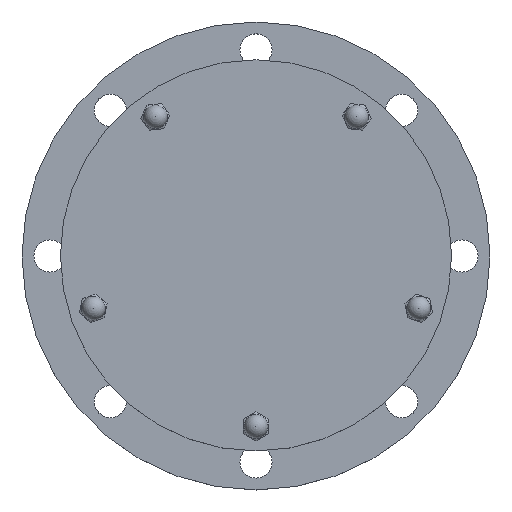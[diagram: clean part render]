
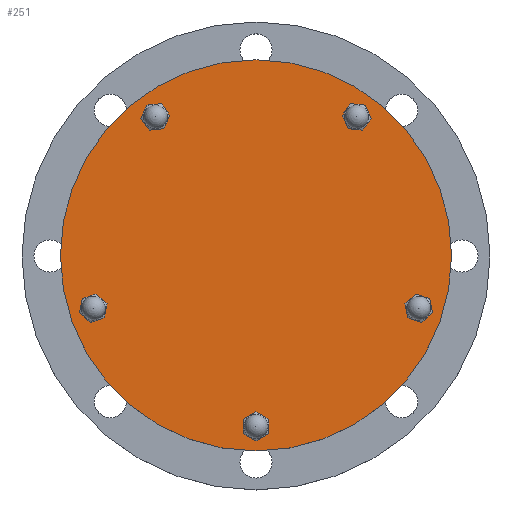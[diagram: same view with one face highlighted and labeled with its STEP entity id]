
A CAD part, top view. The second image highlights one B-rep face of the part: STEP entity #251.
In plain terms, the highlighted planar face has unit normal (0, 0, 1).
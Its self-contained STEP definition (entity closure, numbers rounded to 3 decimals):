
#251=ADVANCED_FACE('',(#967,#969,#971,#973),#975,.T.);
#967=FACE_BOUND('',#968,.T.);
#968=EDGE_LOOP('',(#1851));
#969=FACE_BOUND('',#970,.T.);
#970=EDGE_LOOP('',(#1852));
#971=FACE_BOUND('',#972,.T.);
#972=EDGE_LOOP('',(#1853));
#973=FACE_BOUND('',#974,.T.);
#974=EDGE_LOOP('',(#1854));
#975=PLANE('',#976);
#976=AXIS2_PLACEMENT_3D('',#977,#978,#979);
#977=CARTESIAN_POINT('',(0.,0.,273.));
#978=DIRECTION('',(0.,0.,1.));
#979=DIRECTION('',(-1.,0.,0.));
#1851=ORIENTED_EDGE('',*,*,#2281,.F.);
#1852=ORIENTED_EDGE('',*,*,#2282,.F.);
#1853=ORIENTED_EDGE('',*,*,#2283,.F.);
#1854=ORIENTED_EDGE('',*,*,#2284,.F.);
#2281=EDGE_CURVE('',#2466,#2466,#2467,.T.);
#2282=EDGE_CURVE('',#2468,#2468,#2469,.T.);
#2283=EDGE_CURVE('',#2470,#2470,#2471,.T.);
#2284=EDGE_CURVE('',#2472,#2472,#2473,.T.);
#2466=VERTEX_POINT('',#2771);
#2467=CIRCLE('',#2772,140.);
#2468=VERTEX_POINT('',#2776);
#2469=CIRCLE('',#2777,8.1);
#2470=VERTEX_POINT('',#2781);
#2471=CIRCLE('',#2782,8.1);
#2472=VERTEX_POINT('',#2786);
#2473=CIRCLE('',#2787,8.1);
#2771=CARTESIAN_POINT('',(-140.,0.,273.));
#2772=AXIS2_PLACEMENT_3D('',#2773,#2774,#2775);
#2773=CARTESIAN_POINT('',(0.,0.,273.));
#2774=DIRECTION('',(0.,0.,-1.));
#2775=DIRECTION('',(-1.,0.,0.));
#2776=CARTESIAN_POINT('',(-76.765,105.658,273.));
#2777=AXIS2_PLACEMENT_3D('',#2778,#2779,#2780);
#2778=CARTESIAN_POINT('',(-72.004,99.105,273.));
#2779=DIRECTION('',(0.,0.,1.));
#2780=DIRECTION('',(-0.588,0.809,0.));
#2781=CARTESIAN_POINT('',(0.,-130.6,273.));
#2782=AXIS2_PLACEMENT_3D('',#2783,#2784,#2785);
#2783=CARTESIAN_POINT('',(0.,-122.5,273.));
#2784=DIRECTION('',(0.,0.,1.));
#2785=DIRECTION('',(0.,-1.,0.));
#2786=CARTESIAN_POINT('',(-124.208,-40.358,273.));
#2787=AXIS2_PLACEMENT_3D('',#2788,#2789,#2790);
#2788=CARTESIAN_POINT('',(-116.504,-37.855,273.));
#2789=DIRECTION('',(0.,0.,1.));
#2790=DIRECTION('',(-0.951,-0.309,0.));
